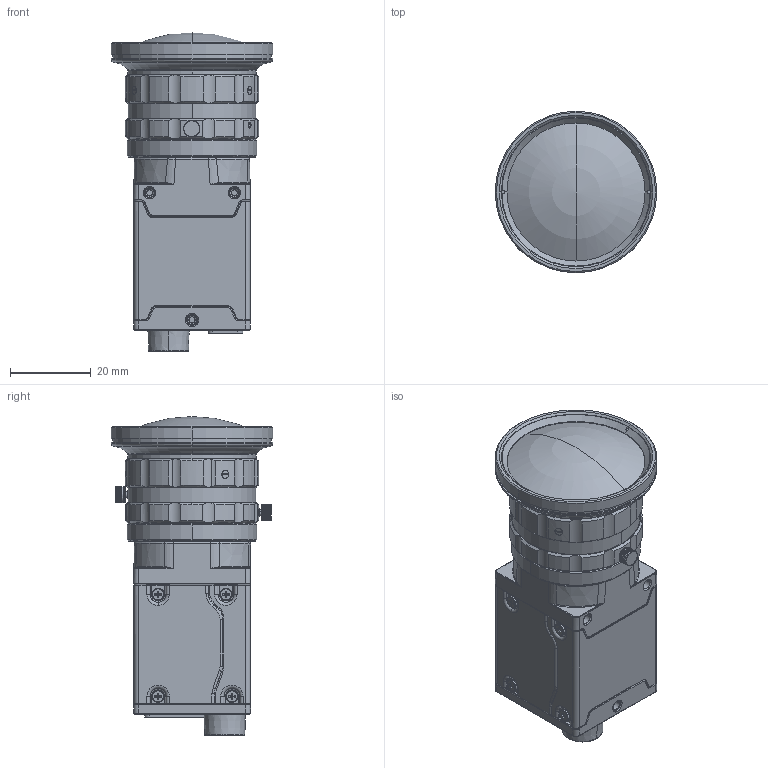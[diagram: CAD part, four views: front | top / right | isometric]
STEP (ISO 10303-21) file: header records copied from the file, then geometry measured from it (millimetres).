
FILE_DESCRIPTION (( 'STEP AP214' ), '1' );
FILE_NAME ('BaslerAceCameraAssembly.STEP', '2024-07-10T21:11:40', ( '' ), ( '' ), 'SwSTEP 2.0', 'SolidWorks 2024', '' );
FILE_SCHEMA (( 'AUTOMOTIVE_DESIGN' ));
Length unit declared in the file: millimetre
Products named in the file (3): basler ace 2 usb3; BaslerAceCameraAssembly; cseries_lens_edmunds_4.5mm_86900
Assembly tree (2 placements, depth 2):
  BaslerAceCameraAssembly
    basler ace 2 usb3
    cseries_lens_edmunds_4.5mm_86900
Bounding box: 40 x 40 x 78.98 mm (x, y, z)
Volume: 27975.1 mm3; surface area: 16233.1 mm2
Topology: 1 solids, 17 shells, 3389 faces, 10027 edges, 6719 vertices
Faces by surface type: plane 1223, cylinder 952, cone 522, bspline 414, torus 272, sphere 6
Entity records: 255762 total; most frequent: CARTESIAN_POINT 183203, ORIENTED_EDGE 19906, EDGE_CURVE 9995, B_SPLINE_CURVE_WITH_KNOTS 8218, DIRECTION 7947, VERTEX_POINT 6717, EDGE_LOOP 3612, AXIS2_PLACEMENT_3D 3533
